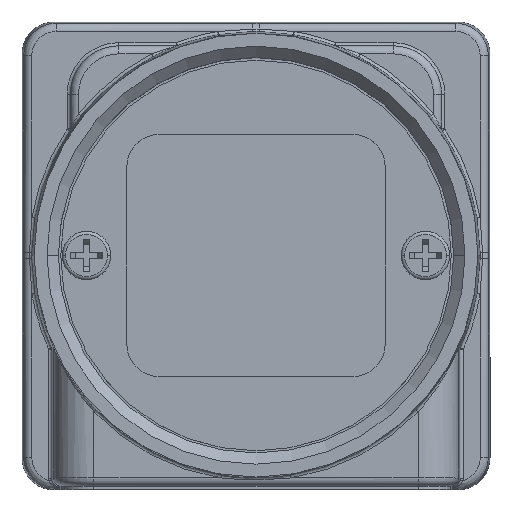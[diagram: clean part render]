
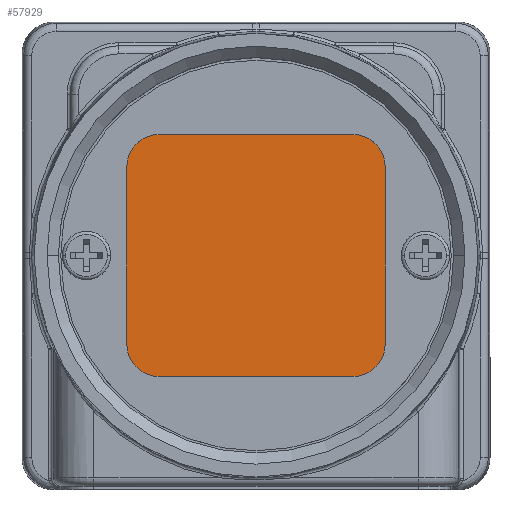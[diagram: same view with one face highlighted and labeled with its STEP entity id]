
A CAD part, top view. The second image highlights one B-rep face of the part: STEP entity #57929.
In plain terms, the highlighted planar face has unit normal (0, 0, 1).
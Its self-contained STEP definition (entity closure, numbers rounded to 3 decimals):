
#1793 = CARTESIAN_POINT ( 'NONE',  ( 6., 7.5, -11.5 ) ) ;
#3650 = CIRCLE ( 'NONE', #80814, 2. ) ;
#4928 = DIRECTION ( 'NONE',  ( 0., 0., 1. ) ) ;
#6385 = CARTESIAN_POINT ( 'NONE',  ( -6., -7.5, -11.5 ) ) ;
#6416 = ORIENTED_EDGE ( 'NONE', *, *, #50714, .T. ) ;
#6661 = EDGE_CURVE ( 'NONE', #24896, #67758, #3650, .T. ) ;
#9509 = VECTOR ( 'NONE', #15296, 1000. ) ;
#9701 = AXIS2_PLACEMENT_3D ( 'NONE', #49658, #4928, #17443 ) ;
#10293 = CARTESIAN_POINT ( 'NONE',  ( 8., 5.5, -11.5 ) ) ;
#12760 = DIRECTION ( 'NONE',  ( 1., 0., 0. ) ) ;
#15061 = VERTEX_POINT ( 'NONE', #55125 ) ;
#15296 = DIRECTION ( 'NONE',  ( 0., 1., 0. ) ) ;
#15402 = DIRECTION ( 'NONE',  ( 0., 0., 1. ) ) ;
#16084 = DIRECTION ( 'NONE',  ( 0., 0., 1. ) ) ;
#17443 = DIRECTION ( 'NONE',  ( 1., 0., 0. ) ) ;
#18655 = ORIENTED_EDGE ( 'NONE', *, *, #6661, .T. ) ;
#18950 = VECTOR ( 'NONE', #51890, 1000. ) ;
#20098 = ORIENTED_EDGE ( 'NONE', *, *, #58551, .T. ) ;
#22525 = VERTEX_POINT ( 'NONE', #41478 ) ;
#23043 = EDGE_LOOP ( 'NONE', ( #60107, #30108, #20098, #18655, #26255, #69332, #6416, #75442 ) ) ;
#24896 = VERTEX_POINT ( 'NONE', #38674 ) ;
#26255 = ORIENTED_EDGE ( 'NONE', *, *, #79248, .T. ) ;
#28440 = DIRECTION ( 'NONE',  ( 1., 0., 0. ) ) ;
#30108 = ORIENTED_EDGE ( 'NONE', *, *, #72531, .T. ) ;
#33568 = CARTESIAN_POINT ( 'NONE',  ( -8., 5.5, -11.5 ) ) ;
#34110 = CARTESIAN_POINT ( 'NONE',  ( 8., -5.5, -11.5 ) ) ;
#35670 = LINE ( 'NONE', #52592, #42593 ) ;
#37822 = LINE ( 'NONE', #33568, #18950 ) ;
#38063 = EDGE_CURVE ( 'NONE', #73061, #22525, #35670, .T. ) ;
#38674 = CARTESIAN_POINT ( 'NONE',  ( 8., 5.5, -11.5 ) ) ;
#39270 = LINE ( 'NONE', #10293, #9509 ) ;
#40205 = CARTESIAN_POINT ( 'NONE',  ( -8., 5.5, -11.5 ) ) ;
#40643 = DIRECTION ( 'NONE',  ( 1., 0., 0. ) ) ;
#41478 = CARTESIAN_POINT ( 'NONE',  ( 6., -7.5, -11.5 ) ) ;
#42593 = VECTOR ( 'NONE', #28440, 1000. ) ;
#43057 = CIRCLE ( 'NONE', #61318, 2. ) ;
#47240 = DIRECTION ( 'NONE',  ( -1., 0., 0. ) ) ;
#47400 = CARTESIAN_POINT ( 'NONE',  ( -6., 7.5, -11.5 ) ) ;
#47508 = AXIS2_PLACEMENT_3D ( 'NONE', #78870, #15402, #40643 ) ;
#48308 = DIRECTION ( 'NONE',  ( 0., 0., 1. ) ) ;
#49658 = CARTESIAN_POINT ( 'NONE',  ( -6., -5.5, -11.5 ) ) ;
#50638 = CIRCLE ( 'NONE', #79039, 2. ) ;
#50714 = EDGE_CURVE ( 'NONE', #53952, #15061, #37822, .T. ) ;
#50853 = VERTEX_POINT ( 'NONE', #34110 ) ;
#51890 = DIRECTION ( 'NONE',  ( 0., -1., 0. ) ) ;
#52482 = CARTESIAN_POINT ( 'NONE',  ( 6., 5.5, -11.5 ) ) ;
#52592 = CARTESIAN_POINT ( 'NONE',  ( -6., -7.5, -11.5 ) ) ;
#53316 = LINE ( 'NONE', #72797, #78100 ) ;
#53952 = VERTEX_POINT ( 'NONE', #40205 ) ;
#55125 = CARTESIAN_POINT ( 'NONE',  ( -8., -5.5, -11.5 ) ) ;
#56681 = VERTEX_POINT ( 'NONE', #47400 ) ;
#57929 = ADVANCED_FACE ( 'NONE', ( #78215 ), #71946, .T. ) ;
#58144 = DIRECTION ( 'NONE',  ( 0., 0., 1. ) ) ;
#58551 = EDGE_CURVE ( 'NONE', #50853, #24896, #39270, .T. ) ;
#60107 = ORIENTED_EDGE ( 'NONE', *, *, #38063, .T. ) ;
#61318 = AXIS2_PLACEMENT_3D ( 'NONE', #73454, #48308, #73191 ) ;
#67758 = VERTEX_POINT ( 'NONE', #1793 ) ;
#69332 = ORIENTED_EDGE ( 'NONE', *, *, #80155, .T. ) ;
#69546 = CARTESIAN_POINT ( 'NONE',  ( 6., -5.5, -11.5 ) ) ;
#71946 = PLANE ( 'NONE',  #47508 ) ;
#72518 = DIRECTION ( 'NONE',  ( -1., 0., 0. ) ) ;
#72531 = EDGE_CURVE ( 'NONE', #22525, #50853, #50638, .T. ) ;
#72797 = CARTESIAN_POINT ( 'NONE',  ( -6., 7.5, -11.5 ) ) ;
#73061 = VERTEX_POINT ( 'NONE', #6385 ) ;
#73191 = DIRECTION ( 'NONE',  ( 1., 0., 0. ) ) ;
#73454 = CARTESIAN_POINT ( 'NONE',  ( -6., 5.5, -11.5 ) ) ;
#75092 = EDGE_CURVE ( 'NONE', #15061, #73061, #78529, .T. ) ;
#75442 = ORIENTED_EDGE ( 'NONE', *, *, #75092, .T. ) ;
#78100 = VECTOR ( 'NONE', #72518, 1000. ) ;
#78215 = FACE_OUTER_BOUND ( 'NONE', #23043, .T. ) ;
#78529 = CIRCLE ( 'NONE', #9701, 2. ) ;
#78870 = CARTESIAN_POINT ( 'NONE',  ( 0., 0., -11.5 ) ) ;
#79039 = AXIS2_PLACEMENT_3D ( 'NONE', #69546, #58144, #12760 ) ;
#79248 = EDGE_CURVE ( 'NONE', #67758, #56681, #53316, .T. ) ;
#80155 = EDGE_CURVE ( 'NONE', #56681, #53952, #43057, .T. ) ;
#80814 = AXIS2_PLACEMENT_3D ( 'NONE', #52482, #16084, #47240 ) ;
